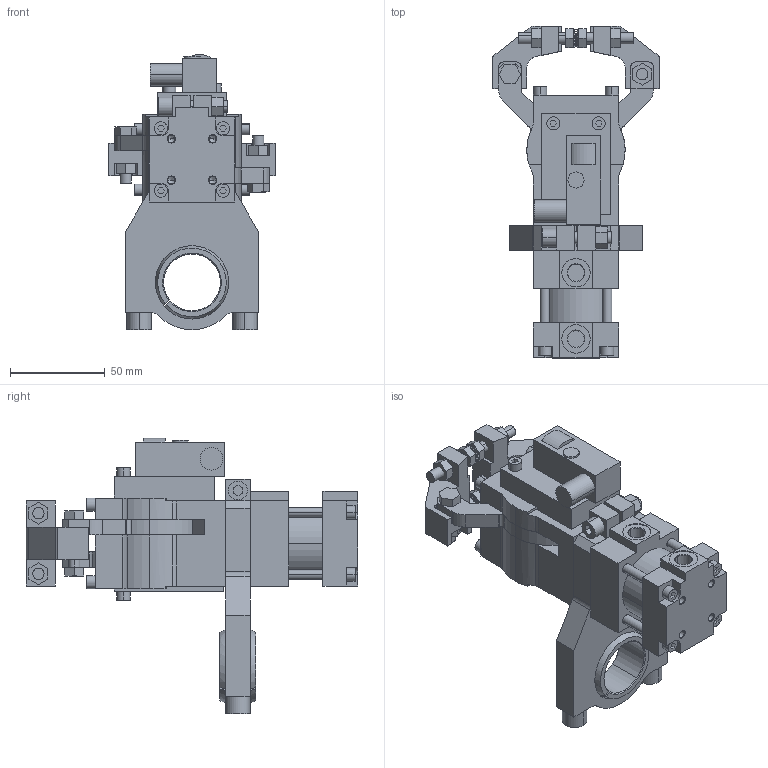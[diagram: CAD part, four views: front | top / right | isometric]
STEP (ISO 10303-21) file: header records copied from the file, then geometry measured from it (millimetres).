
FILE_DESCRIPTION (( 'STEP AP214' ), '1' );
FILE_NAME ('b32_b2sx_pla___a_b30.STEP', '2018-05-08T12:54:58', ( 'vepadmin' ), ( 'Hewlett-Packard Company' ), 'SwSTEP 2.0', 'SolidWorks 2018', '' );
FILE_SCHEMA (( 'AUTOMOTIVE_DESIGN' ));
Length unit declared in the file: millimetre
Products named in the file (11): tassello_b2_b32; calotta_sferica_30_b32; piedino_zigrinato_M6x25; gruppo_cilindro_b32; riparo_micro_b32; blocchetto_p&f_90; scatola_micro_b32; attacco_snodo_b30_b32; leva_b32b; gruppo_montante_b32b; b32_b2sx_pla___a_b30
Assembly tree (15 placements, depth 2):
  b32_b2sx_pla___a_b30
    gruppo_montante_b32b
    leva_b32b  x2
    attacco_snodo_b30_b32
    scatola_micro_b32
    blocchetto_p&f_90
    riparo_micro_b32
    gruppo_cilindro_b32
    piedino_zigrinato_M6x25  x4
    calotta_sferica_30_b32
    tassello_b2_b32  x2
Bounding box: 88 x 175.5 x 145.6 mm (x, y, z)
Volume: 399508.3 mm3; surface area: 116069.2 mm2
Topology: 15 solids, 15 shells, 1132 faces, 2707 edges, 1757 vertices
Faces by surface type: plane 833, cylinder 267, cone 28, sphere 4
Entity records: 20343 total; most frequent: CARTESIAN_POINT 3595, DIRECTION 3376, ORIENTED_EDGE 3318, EDGE_CURVE 1659, VECTOR 1228, LINE 1228, VERTEX_POINT 1085, AXIS2_PLACEMENT_3D 1074
